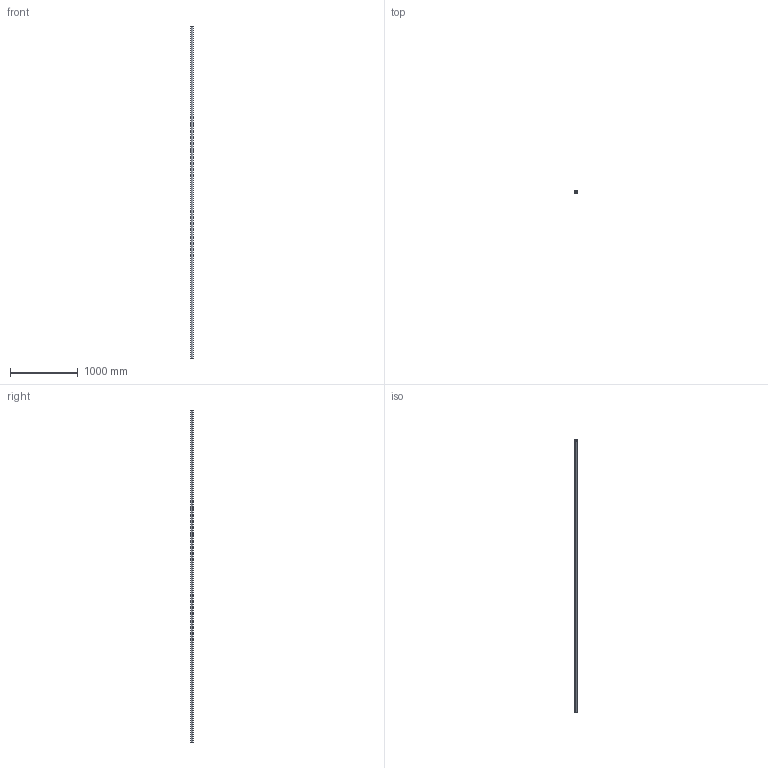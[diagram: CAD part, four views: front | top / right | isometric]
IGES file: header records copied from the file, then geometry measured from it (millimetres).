
Start section: SolidWorks IGES file using analytic representation for surfaces
Global section: file name: C:\Users\IanO\Desktop\L1771_v2\L1771.40_v2\L1771.40_v2_20230705_IGES\L1771.40-4900.igs; native system: SolidWorks 2019; preprocessor: SolidWorks 2019; author: IanO; date: 230705.162814; units: millimetre
Bounding box: 40 x 40 x 4900 mm (x, y, z)
Surface area: 1048060.4 mm2 (no closed solid volume)
Topology: 0 solids, 0 shells, 6 faces, 272 edges, 272 vertices
Faces by surface type: revolution 4, bspline 2
